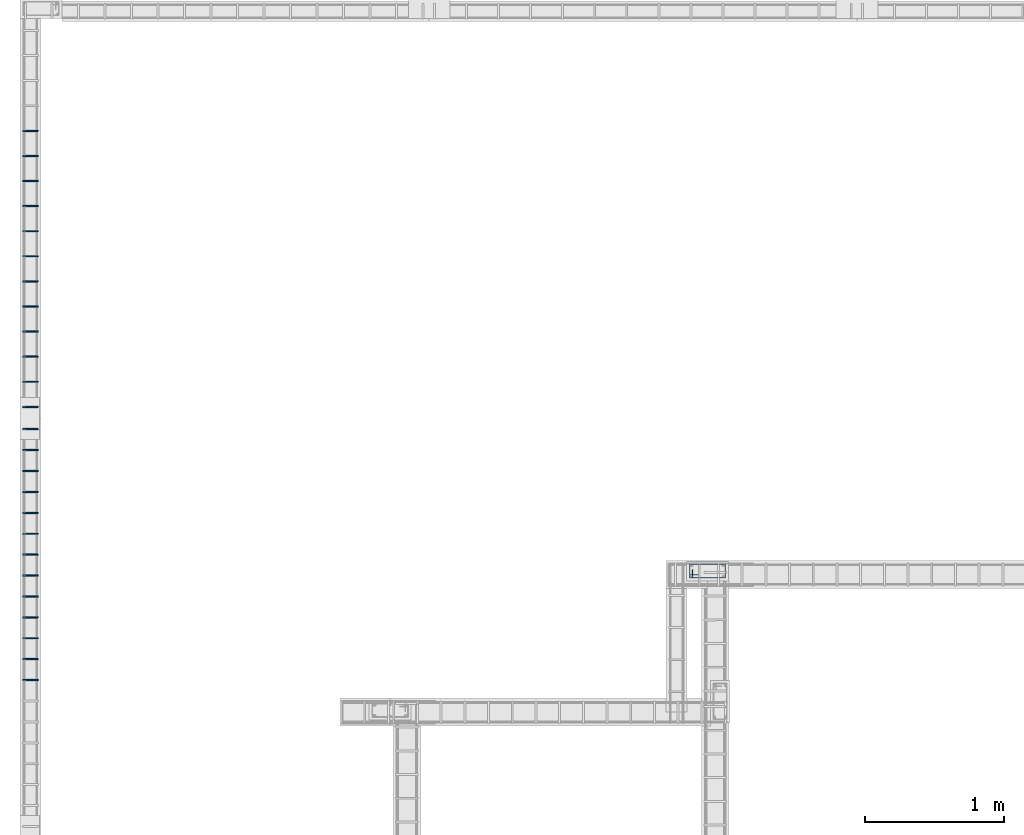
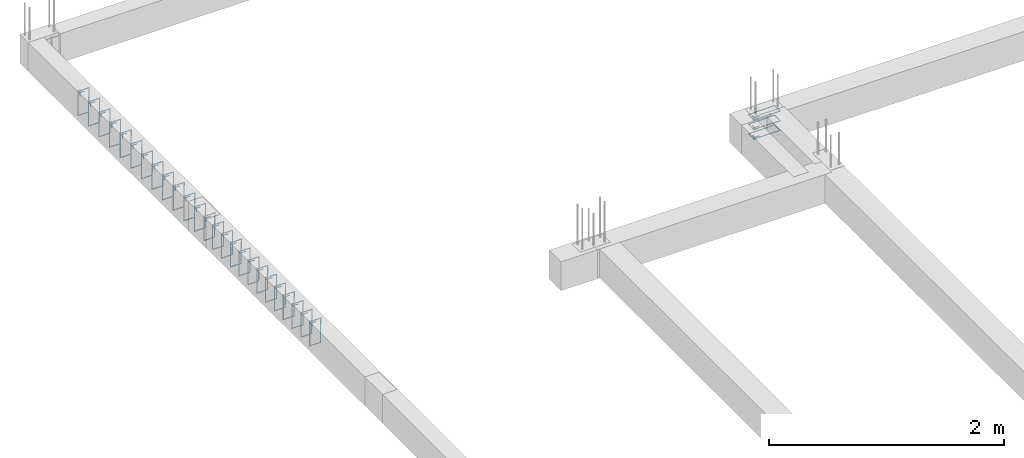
# One storey, part 122 of 150: 28 reinforcing bars.
"""IFC4 building model written with IfcOpenShell, lengths in centimetres."""

import ifcopenshell
import ifcopenshell.guid

model = None  # the IFC model being written
_history = None  # IfcOwnerHistory: only IFC2X3 demands one
_inside = {}  # id of a spatial element -> (the spatial element, [elements in it])
_under = {}  # id of a project, library or spatial element -> (it, [spatial elements below it])
_declared = {}  # id of a project -> (the project, [libraries it declares])
_typed = {}  # id of a type object -> (the type object, [elements of that type])
_made_of = {}  # id of a material, layer set ... -> (it, [elements and type objects made of it])


def new_model(schema):
    """Start an empty IFC model of exactly this schema.

    Asked for "IFC4X3", IfcOpenShell would pick the latest addendum, in which some entities
    have other attributes; the version numbers below select the first issue.
    IFC2X3 requires an IfcOwnerHistory on every rooted entity: one is made here for all.
    """
    global model, _history
    if schema == "IFC4X3":
        model = ifcopenshell.file(schema_version=(4, 3, 0, 0))
    else:
        model = ifcopenshell.file(schema=schema)
    _inside.clear()
    _under.clear()
    _declared.clear()
    _typed.clear()
    _made_of.clear()
    _history = None
    if model.schema == "IFC2X3":
        org = make("IfcOrganization", Name="unknown")
        user = make(
            "IfcPersonAndOrganization",
            ThePerson=make("IfcPerson", FamilyName="unknown"),
            TheOrganization=org,
        )
        app = make(
            "IfcApplication",
            ApplicationDeveloper=org,
            Version="unknown",
            ApplicationFullName="unknown",
            ApplicationIdentifier="unknown",
        )
        _history = make(
            "IfcOwnerHistory",
            OwningUser=user,
            OwningApplication=app,
            ChangeAction="ADDED",
            CreationDate=0,
        )
    return model


def make(cls, **values):
    """One entity of the class cls with the attributes given. An attribute that is None is left unset."""
    return model.create_entity(
        cls, **{name: value for name, value in values.items() if value is not None}
    )


def entity(cls, *values):
    """Any entity or typed value of the class cls, its attributes in the order of the schema. None: left unset."""
    e = model.create_entity(cls)
    for i, value in enumerate(values):
        if value is not None:
            e[i] = value
    return e


def rooted(cls, **values):
    """An entity with a GlobalId (a new one), such as an element, a storey or a relation."""
    return make(cls, GlobalId=ifcopenshell.guid.new(), OwnerHistory=_history, **values)


def si_unit(unit_type, name, prefix=None):
    """IfcSIUnit, for example si_unit("LENGTHUNIT", "METRE", prefix="MILLI")."""
    return make("IfcSIUnit", UnitType=unit_type, Prefix=prefix, Name=name)


def derived_unit(unit_type, elements):
    """IfcDerivedUnit: a product of units, each with its exponent."""
    return make(
        "IfcDerivedUnit",
        Elements=[
            make("IfcDerivedUnitElement", Unit=unit, Exponent=power)
            for unit, power in elements
        ],
        UnitType=unit_type,
    )


def assignment(units):
    """IfcUnitAssignment: the units of a project."""
    return None if units is None else make("IfcUnitAssignment", Units=units)


def point(xyz):
    """IfcCartesianPoint."""
    return None if xyz is None else make("IfcCartesianPoint", Coordinates=xyz)


def direction(xyz):
    """IfcDirection."""
    return None if xyz is None else make("IfcDirection", DirectionRatios=xyz)


def frame(location, z_axis=None, x_axis=None):
    """IfcAxis2Placement3D, a coordinate frame: its origin and axes. An axis left out is left unset."""
    return make(
        "IfcAxis2Placement3D",
        Location=point(location),
        Axis=direction(z_axis),
        RefDirection=direction(x_axis),
    )


def origin_with_axes():
    """The frame at (0, 0, 0) with the z axis (0, 0, 1) and the x axis (1, 0, 0) written out."""
    return frame((0.0, 0.0, 0.0), z_axis=(0.0, 0.0, 1.0), x_axis=(1.0, 0.0, 0.0))


def place(relative_to, where):
    """IfcLocalPlacement: puts the frame where relative to a parent placement (None: the world)."""
    return make(
        "IfcLocalPlacement", PlacementRelTo=relative_to, RelativePlacement=where
    )


def context(
    kind, dimensions, precision=None, world=None, true_north=None, identifier=None
):
    """IfcGeometricRepresentationContext, for example the 3D "Model" context."""
    return make(
        "IfcGeometricRepresentationContext",
        ContextIdentifier=identifier,
        ContextType=kind,
        CoordinateSpaceDimension=dimensions,
        Precision=precision,
        WorldCoordinateSystem=world,
        TrueNorth=true_north,
    )


def project(units=None, contexts=None):
    """IfcProject with its units and contexts."""
    return rooted(
        "IfcProject",
        Name="project",
        RepresentationContexts=contexts,
        UnitsInContext=assignment(units),
    )


def spatial(cls, under=None, at=None, **own):
    """A site, building, storey or space (cls), placed at a placement, below another one or the project."""
    s = rooted(cls, ObjectPlacement=at, **own)
    if under is not None:
        _under.setdefault(under.id(), (under, []))[1].append(s)
    return s


def shape(context_of_items, identifier, shape_type, items):
    """IfcShapeRepresentation: the items that make up one representation, for example the "Body"."""
    return make(
        "IfcShapeRepresentation",
        ContextOfItems=context_of_items,
        RepresentationIdentifier=identifier,
        RepresentationType=shape_type,
        Items=items,
    )


def source(mapping_origin, context_of_items, identifier, shape_type, items):
    """IfcRepresentationMap: a shape defined once, which mapped items show again and again."""
    return make(
        "IfcRepresentationMap",
        MappingOrigin=mapping_origin,
        MappedRepresentation=shape(context_of_items, identifier, shape_type, items),
    )


def transform(
    local_origin,
    x_axis=None,
    y_axis=None,
    z_axis=None,
    scale=None,
    scale2=None,
    scale3=None,
    uniform=True,
):
    """IfcCartesianTransformationOperator3D, or its non-uniform kind. x_axis, y_axis, z_axis: its Axis1, 2, 3."""
    if uniform:
        return make(
            "IfcCartesianTransformationOperator3D",
            Axis1=direction(x_axis),
            Axis2=direction(y_axis),
            LocalOrigin=point(local_origin),
            Scale=scale,
            Axis3=direction(z_axis),
        )
    return make(
        "IfcCartesianTransformationOperator3DnonUniform",
        Axis1=direction(x_axis),
        Axis2=direction(y_axis),
        LocalOrigin=point(local_origin),
        Scale=scale,
        Axis3=direction(z_axis),
        Scale2=scale2,
        Scale3=scale3,
    )


def mapped(mapping_source, mapping_target):
    """IfcMappedItem: shows the shape of a source again, moved by a transform."""
    return make(
        "IfcMappedItem", MappingSource=mapping_source, MappingTarget=mapping_target
    )


def made_of(thing, what):
    """Note that an element or type object is made of a material, layer set ...; save() writes the relation."""
    if what is not None:
        _made_of.setdefault(what.id(), (what, []))[1].append(thing)
    return thing


def element(
    cls,
    number,
    at=None,
    inside=None,
    cuts=None,
    type_object=None,
    material=None,
    context=None,
    identifier="Body",
    shape_type=None,
    held_by="IfcProductDefinitionShape",
    body=None,
    shapes=None,
    **own,
):
    """One element of the class cls, such as IfcWall. Its Tag is "e" and its number.

    at: its placement. inside: the storey or other place that contains it. cuts: it is an
    opening in that element (IfcRelVoidsElement). A single representation is given by context,
    identifier, shape_type and body (its items); several are given by shapes. held_by: the class
    of the entity that holds the representations. save() writes the other relations.
    """
    e = rooted(cls, Tag="e%d" % number, ObjectPlacement=at, **own)
    if body is not None:
        shapes = [shape(context, identifier, shape_type, body)]
    if shapes is not None:
        e.Representation = make(held_by, Representations=shapes)
    if inside is not None:
        _inside.setdefault(inside.id(), (inside, []))[1].append(e)
    if cuts is not None:
        rooted(
            "IfcRelVoidsElement", RelatingBuildingElement=cuts, RelatedOpeningElement=e
        )
    if type_object is not None:
        _typed.setdefault(type_object.id(), (type_object, []))[1].append(e)
    return made_of(e, material)


def aggregate(whole, parts):
    """IfcRelAggregates: a whole, such as a stair, and the parts it consists of."""
    return rooted("IfcRelAggregates", RelatingObject=whole, RelatedObjects=parts)


def save(model, path):
    """Write the relations noted so far, then the file.

    IfcRelAggregates (storeys below a building ...), IfcRelContainedInSpatialStructure (elements
    in a storey), IfcRelDefinesByType, IfcRelAssociatesMaterial and IfcRelDeclares: one each for
    every whole, place, type object, material and project.
    """
    for whole, parts in _under.values():
        aggregate(whole, parts)
    for where, things in _inside.values():
        rooted(
            "IfcRelContainedInSpatialStructure",
            RelatedElements=things,
            RelatingStructure=where,
        )
    for kind, things in _typed.values():
        rooted("IfcRelDefinesByType", RelatedObjects=things, RelatingType=kind)
    for what, things in _made_of.values():
        rooted("IfcRelAssociatesMaterial", RelatedObjects=things, RelatingMaterial=what)
    for by, libraries in _declared.values():
        rooted("IfcRelDeclares", RelatingContext=by, RelatedDefinitions=libraries)
    model.write(path)


model = new_model("IFC4")

# Units and contexts
model_context = context("Model", 3, precision=1e-05, world=origin_with_axes(), identifier="Body")
ifc_project = project(units=[si_unit("LENGTHUNIT", "METRE", prefix="CENTI"), si_unit("VOLUMEUNIT", "CUBIC_METRE"), si_unit("AREAUNIT", "SQUARE_METRE"), si_unit("POWERUNIT", "WATT"), si_unit("LUMINOUSFLUXUNIT", "LUMEN"), si_unit("ELECTRICCURRENTUNIT", "AMPERE"), si_unit("PRESSUREUNIT", "PASCAL", prefix="KILO"), si_unit("MASSUNIT", "GRAM", prefix="KILO"), si_unit("PLANEANGLEUNIT", "RADIAN"), derived_unit("VOLUMETRICFLOWRATEUNIT", [(si_unit("LENGTHUNIT", "METRE"), 3), (si_unit("TIMEUNIT", "SECOND"), -1)])], contexts=[model_context])

# Site, building, storey
site_placement = place(None, frame((-4000.0, 0.0, 0.0), z_axis=(0.0, 0.0, 1.0), x_axis=(1.0, 0.0, 0.0)))
site = spatial("IfcSite", under=ifc_project, at=site_placement, Name="PADRÃO")
building_placement = place(site_placement, frame((0.0, 0.0, -14.0)))
building = spatial("IfcBuilding", under=site, at=building_placement, Name="CRECHE PRÉ-ESCOLA TIPO 2")
placement = place(building_placement, origin_with_axes())
storey_placement = place(placement, frame((0.0, 0.0, 30.0), z_axis=(0.0, 0.0, 1.0), x_axis=(1.0, 0.0, 0.0)))
storey = spatial("IfcBuildingStorey", under=building, at=storey_placement, Name="VIGA BALDRAME", CompositionType="ELEMENT", Elevation=16.0)

# Reinforcing bars
shared_shape_1 = source(origin_with_axes(), model_context, "Body", "AdvancedSweptSolid", [
    entity("IfcSweptDiskSolid", entity("IfcCompositeCurve", [entity("IfcCompositeCurveSegment", "CONTINUOUS", True, entity("IfcPolyline", [entity("IfcCartesianPoint", [4.25, 21.75, 0.0]), entity("IfcCartesianPoint", [4.25, 27.75, 0.0])])), entity("IfcCompositeCurveSegment", "CONTINUOUS", True, entity("IfcPolyline", [entity("IfcCartesianPoint", [4.25, 27.75, 0.0]), entity("IfcCartesianPoint", [2.25, 27.75, 0.0])])), entity("IfcCompositeCurveSegment", "CONTINUOUS", True, entity("IfcPolyline", [entity("IfcCartesianPoint", [2.25, 27.75, 0.0]), entity("IfcCartesianPoint", [2.25, 2.25, 0.0])])), entity("IfcCompositeCurveSegment", "CONTINUOUS", True, entity("IfcPolyline", [entity("IfcCartesianPoint", [2.25, 2.25, 0.0]), entity("IfcCartesianPoint", [11.75, 2.25, 0.0])])), entity("IfcCompositeCurveSegment", "CONTINUOUS", True, entity("IfcPolyline", [entity("IfcCartesianPoint", [11.75, 2.25, 0.0]), entity("IfcCartesianPoint", [11.75, 27.75, -0.5])])), entity("IfcCompositeCurveSegment", "CONTINUOUS", True, entity("IfcPolyline", [entity("IfcCartesianPoint", [11.75, 27.75, -0.5]), entity("IfcCartesianPoint", [2.25, 27.75, -0.5])])), entity("IfcCompositeCurveSegment", "CONTINUOUS", True, entity("IfcPolyline", [entity("IfcCartesianPoint", [2.25, 27.75, -0.5]), entity("IfcCartesianPoint", [2.25, 25.75, -0.5])])), entity("IfcCompositeCurveSegment", "CONTINUOUS", True, entity("IfcPolyline", [entity("IfcCartesianPoint", [2.25, 25.75, -0.5]), entity("IfcCartesianPoint", [8.25, 25.75, -0.5])]))], False), 0.25),
])
for number, where, z_axis, x_axis, name in (
    (1, (509.67, 4078.0, -15.0), (0.0, 0.0, 1.0), (0.0, 1.0, 0.0), "P17 - Estribo"),
    (2, (509.67, 4078.0, -5.0), (0.0, 0.0, 1.0), (0.0, 1.0, 0.0), "P17 - Estribo"),
    (3, (509.67, 4078.0, -25.0), (0.0, 0.0, 1.0), (0.0, 1.0, 0.0), "P17 - Estribo"),
):
    element("IfcReinforcingBar", number, at=place(storey_placement, frame(where, z_axis=z_axis, x_axis=x_axis)), inside=storey, Name=name, BarLength=0.0, CrossSectionArea=1.9634954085e-05, NominalDiameter=0.5, PredefinedType="MAIN", context=model_context, shape_type="MappedRepresentation", body=[
        mapped(shared_shape_1, transform((0.0, 0.0, 0.0), scale=1.0)),
    ])
shared_shape_2 = source(origin_with_axes(), model_context, "Body", "AdvancedSweptSolid", [
    entity("IfcSweptDiskSolid", entity("IfcCompositeCurve", [entity("IfcCompositeCurveSegment", "CONTINUOUS", True, entity("IfcPolyline", [entity("IfcCartesianPoint", [2.0, -6.0, 0.0]), entity("IfcCartesianPoint", [2.0, 0.0, 0.0])])), entity("IfcCompositeCurveSegment", "CONTINUOUS", True, entity("IfcPolyline", [entity("IfcCartesianPoint", [2.0, 0.0, 0.0]), entity("IfcCartesianPoint", [0.0, 0.0, 0.0])])), entity("IfcCompositeCurveSegment", "CONTINUOUS", True, entity("IfcPolyline", [entity("IfcCartesianPoint", [0.0, 0.0, 0.0]), entity("IfcCartesianPoint", [0.0, -25.5, 0.0])])), entity("IfcCompositeCurveSegment", "CONTINUOUS", True, entity("IfcPolyline", [entity("IfcCartesianPoint", [0.0, -25.5, 0.0]), entity("IfcCartesianPoint", [10.5, -25.5, 0.0])])), entity("IfcCompositeCurveSegment", "CONTINUOUS", True, entity("IfcPolyline", [entity("IfcCartesianPoint", [10.5, -25.5, 0.0]), entity("IfcCartesianPoint", [10.5, 0.0, 0.5])])), entity("IfcCompositeCurveSegment", "CONTINUOUS", True, entity("IfcPolyline", [entity("IfcCartesianPoint", [10.5, 0.0, 0.5]), entity("IfcCartesianPoint", [0.0, 0.0, 0.5])])), entity("IfcCompositeCurveSegment", "CONTINUOUS", True, entity("IfcPolyline", [entity("IfcCartesianPoint", [0.0, 0.0, 0.5]), entity("IfcCartesianPoint", [0.0, -2.0, 0.5])])), entity("IfcCompositeCurveSegment", "CONTINUOUS", True, entity("IfcPolyline", [entity("IfcCartesianPoint", [0.0, -2.0, 0.5]), entity("IfcCartesianPoint", [6.0, -2.0, 0.5])]))], False), 0.25),
])
for number, where, z_axis, x_axis, name in (
    (4, (3.75, 4187.0, -2.25), (0.0, -1.0, 0.0), (1.0, 0.0, 0.0), "V159 - Estribo"),
    (5, (3.75, 4172.0, -2.25), (0.0, -1.0, 0.0), (1.0, 0.0, 0.0), "V159 - Estribo"),
    (6, (3.75, 4157.0, -2.25), (0.0, -1.0, 0.0), (1.0, 0.0, 0.0), "V159 - Estribo"),
    (7, (3.75, 4142.0, -2.25), (0.0, -1.0, 0.0), (1.0, 0.0, 0.0), "V159 - Estribo"),
    (8, (3.75, 4127.0, -2.25), (0.0, -1.0, 0.0), (1.0, 0.0, 0.0), "V159 - Estribo"),
    (9, (3.75, 4112.0, -2.25), (0.0, -1.0, 0.0), (1.0, 0.0, 0.0), "V159 - Estribo"),
    (10, (3.75, 4097.0, -2.25), (0.0, -1.0, 0.0), (1.0, 0.0, 0.0), "V159 - Estribo"),
    (11, (3.75, 4082.0, -2.25), (0.0, -1.0, 0.0), (1.0, 0.0, 0.0), "V159 - Estribo"),
    (12, (3.75, 4067.0, -2.25), (0.0, -1.0, 0.0), (1.0, 0.0, 0.0), "V159 - Estribo"),
    (13, (3.75, 4052.0, -2.25), (0.0, -1.0, 0.0), (1.0, 0.0, 0.0), "V159 - Estribo"),
    (14, (3.75, 4037.0, -2.25), (0.0, -1.0, 0.0), (1.0, 0.0, 0.0), "V159 - Estribo"),
    (15, (3.75, 4022.0, -2.25), (0.0, -1.0, 0.0), (1.0, 0.0, 0.0), "V159 - Estribo"),
    (16, (3.75, 4007.0, -2.25), (0.0, -1.0, 0.0), (1.0, 0.0, 0.0), "V159 - Estribo"),
):
    element("IfcReinforcingBar", number, at=place(storey_placement, frame(where, z_axis=z_axis, x_axis=x_axis)), inside=storey, Name=name, BarLength=0.0, CrossSectionArea=1.9634954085e-05, NominalDiameter=0.5, PredefinedType="MAIN", context=model_context, shape_type="MappedRepresentation", body=[
        mapped(shared_shape_2, transform((0.0, 0.0, 0.0), scale=1.0)),
    ])
shared_shape_3 = source(origin_with_axes(), model_context, "Body", "AdvancedSweptSolid", [
    entity("IfcSweptDiskSolid", entity("IfcCompositeCurve", [entity("IfcCompositeCurveSegment", "CONTINUOUS", True, entity("IfcPolyline", [entity("IfcCartesianPoint", [2.0, -6.0, 0.0]), entity("IfcCartesianPoint", [2.0, 0.0, 0.0])])), entity("IfcCompositeCurveSegment", "CONTINUOUS", True, entity("IfcPolyline", [entity("IfcCartesianPoint", [2.0, 0.0, 0.0]), entity("IfcCartesianPoint", [0.0, 0.0, 0.0])])), entity("IfcCompositeCurveSegment", "CONTINUOUS", True, entity("IfcPolyline", [entity("IfcCartesianPoint", [0.0, 0.0, 0.0]), entity("IfcCartesianPoint", [0.0, -25.5, 0.0])])), entity("IfcCompositeCurveSegment", "CONTINUOUS", True, entity("IfcPolyline", [entity("IfcCartesianPoint", [0.0, -25.5, 0.0]), entity("IfcCartesianPoint", [10.5, -25.5, 0.0])])), entity("IfcCompositeCurveSegment", "CONTINUOUS", True, entity("IfcPolyline", [entity("IfcCartesianPoint", [10.5, -25.5, 0.0]), entity("IfcCartesianPoint", [10.5, 0.0, 0.5])])), entity("IfcCompositeCurveSegment", "CONTINUOUS", True, entity("IfcPolyline", [entity("IfcCartesianPoint", [10.5, 0.0, 0.5]), entity("IfcCartesianPoint", [0.0, 0.0, 0.5])])), entity("IfcCompositeCurveSegment", "CONTINUOUS", True, entity("IfcPolyline", [entity("IfcCartesianPoint", [0.0, 0.0, 0.5]), entity("IfcCartesianPoint", [0.0, -2.0, 0.5])])), entity("IfcCompositeCurveSegment", "CONTINUOUS", True, entity("IfcPolyline", [entity("IfcCartesianPoint", [0.0, -2.0, 0.5]), entity("IfcCartesianPoint", [6.0, -2.0, 0.5])]))], False), 0.25),
])
for number, where, z_axis, x_axis, name in (
    (17, (3.75, 4401.0, -2.25), (0.0, -1.0, 0.0), (1.0, 0.0, 0.0), "V159 - Estribo"),
    (18, (3.75, 4383.0, -2.25), (0.0, -1.0, 0.0), (1.0, 0.0, 0.0), "V159 - Estribo"),
    (19, (3.75, 4365.0, -2.25), (0.0, -1.0, 0.0), (1.0, 0.0, 0.0), "V159 - Estribo"),
    (20, (3.75, 4347.0, -2.25), (0.0, -1.0, 0.0), (1.0, 0.0, 0.0), "V159 - Estribo"),
    (21, (3.75, 4329.0, -2.25), (0.0, -1.0, 0.0), (1.0, 0.0, 0.0), "V159 - Estribo"),
    (22, (3.75, 4311.0, -2.25), (0.0, -1.0, 0.0), (1.0, 0.0, 0.0), "V159 - Estribo"),
    (23, (3.75, 4293.0, -2.25), (0.0, -1.0, 0.0), (1.0, 0.0, 0.0), "V159 - Estribo"),
    (24, (3.75, 4275.0, -2.25), (0.0, -1.0, 0.0), (1.0, 0.0, 0.0), "V159 - Estribo"),
    (25, (3.75, 4257.0, -2.25), (0.0, -1.0, 0.0), (1.0, 0.0, 0.0), "V159 - Estribo"),
    (26, (3.75, 4239.0, -2.25), (0.0, -1.0, 0.0), (1.0, 0.0, 0.0), "V159 - Estribo"),
    (27, (3.75, 4221.0, -2.25), (0.0, -1.0, 0.0), (1.0, 0.0, 0.0), "V159 - Estribo"),
    (28, (3.75, 4203.0, -2.25), (0.0, -1.0, 0.0), (1.0, 0.0, 0.0), "V159 - Estribo"),
):
    element("IfcReinforcingBar", number, at=place(storey_placement, frame(where, z_axis=z_axis, x_axis=x_axis)), inside=storey, Name=name, BarLength=0.0, CrossSectionArea=1.9634954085e-05, NominalDiameter=0.5, PredefinedType="MAIN", context=model_context, shape_type="MappedRepresentation", body=[
        mapped(shared_shape_3, transform((0.0, 0.0, 0.0), scale=1.0)),
    ])

save(model, "model.ifc")
